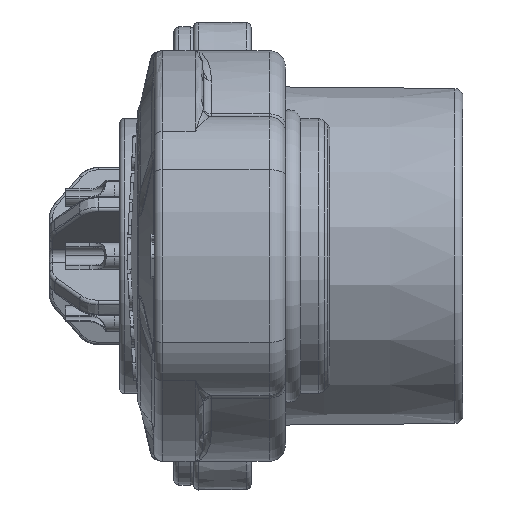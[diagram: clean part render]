
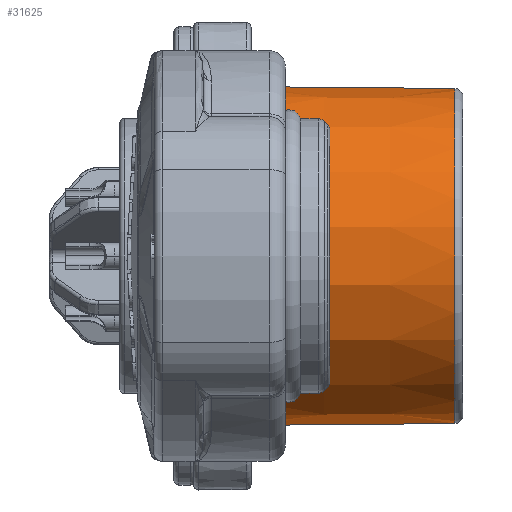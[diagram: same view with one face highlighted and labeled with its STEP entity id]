
A CAD part, front view. The second image highlights one B-rep face of the part: STEP entity #31625.
In plain terms, the highlighted conical face has half-angle 0.5 degrees and reference radius 10.2 mm.
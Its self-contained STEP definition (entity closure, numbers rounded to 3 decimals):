
#2269 = ORIENTED_EDGE ( 'NONE', *, *, #17535, .T. ) ;
#3175 = VERTEX_POINT ( 'NONE', #7048 ) ;
#3735 = DIRECTION ( 'NONE',  ( 0., 0., 1. ) ) ;
#4143 = CARTESIAN_POINT ( 'NONE',  ( -0.496, 0., 0. ) ) ;
#5335 = EDGE_CURVE ( 'NONE', #3175, #12923, #31008, .T. ) ;
#7048 = CARTESIAN_POINT ( 'NONE',  ( -0.496, 0., -10.204 ) ) ;
#7886 = CARTESIAN_POINT ( 'NONE',  ( -12.404, 0., -10.308 ) ) ;
#8197 = LINE ( 'NONE', #12222, #37760 ) ;
#8750 = EDGE_CURVE ( 'NONE', #14629, #12923, #32809, .T. ) ;
#9059 = CONICAL_SURFACE ( 'NONE', #11649, 10.2, 0.009 ) ;
#10688 = FACE_OUTER_BOUND ( 'NONE', #10828, .T. ) ;
#10828 = EDGE_LOOP ( 'NONE', ( #2269, #43601, #25129, #47251 ) ) ;
#11492 = DIRECTION ( 'NONE',  ( -1., 0., 0. ) ) ;
#11649 = AXIS2_PLACEMENT_3D ( 'NONE', #48161, #11492, #23794 ) ;
#11940 = VECTOR ( 'NONE', #40849, 1000. ) ;
#12222 = CARTESIAN_POINT ( 'NONE',  ( 0., 0., 10.2 ) ) ;
#12923 = VERTEX_POINT ( 'NONE', #7886 ) ;
#13524 = CARTESIAN_POINT ( 'NONE',  ( -0.496, 0., 10.204 ) ) ;
#14221 = AXIS2_PLACEMENT_3D ( 'NONE', #4143, #40263, #52335 ) ;
#14629 = VERTEX_POINT ( 'NONE', #23159 ) ;
#15946 = CARTESIAN_POINT ( 'NONE',  ( 0., 0., -10.2 ) ) ;
#17535 = EDGE_CURVE ( 'NONE', #3175, #30676, #38158, .T. ) ;
#23159 = CARTESIAN_POINT ( 'NONE',  ( -12.404, 0., 10.308 ) ) ;
#23794 = DIRECTION ( 'NONE',  ( 0., 0., -1. ) ) ;
#25129 = ORIENTED_EDGE ( 'NONE', *, *, #8750, .T. ) ;
#30676 = VERTEX_POINT ( 'NONE', #13524 ) ;
#31008 = LINE ( 'NONE', #15946, #11940 ) ;
#31625 = ADVANCED_FACE ( 'NONE', ( #10688 ), #9059, .T. ) ;
#32809 = CIRCLE ( 'NONE', #48255, 10.308 ) ;
#37760 = VECTOR ( 'NONE', #48364, 1000. ) ;
#38158 = CIRCLE ( 'NONE', #14221, 10.204 ) ;
#39581 = DIRECTION ( 'NONE',  ( 1., 0., 0. ) ) ;
#40263 = DIRECTION ( 'NONE',  ( -1., 0., 0. ) ) ;
#40374 = CARTESIAN_POINT ( 'NONE',  ( -12.404, 0., 0. ) ) ;
#40849 = DIRECTION ( 'NONE',  ( -1., 0., -0.009 ) ) ;
#43601 = ORIENTED_EDGE ( 'NONE', *, *, #47296, .T. ) ;
#47251 = ORIENTED_EDGE ( 'NONE', *, *, #5335, .F. ) ;
#47296 = EDGE_CURVE ( 'NONE', #30676, #14629, #8197, .T. ) ;
#48161 = CARTESIAN_POINT ( 'NONE',  ( 0., 0., 0. ) ) ;
#48255 = AXIS2_PLACEMENT_3D ( 'NONE', #40374, #39581, #3735 ) ;
#48364 = DIRECTION ( 'NONE',  ( -1., 0., 0.009 ) ) ;
#52335 = DIRECTION ( 'NONE',  ( 0., 0., -1. ) ) ;
